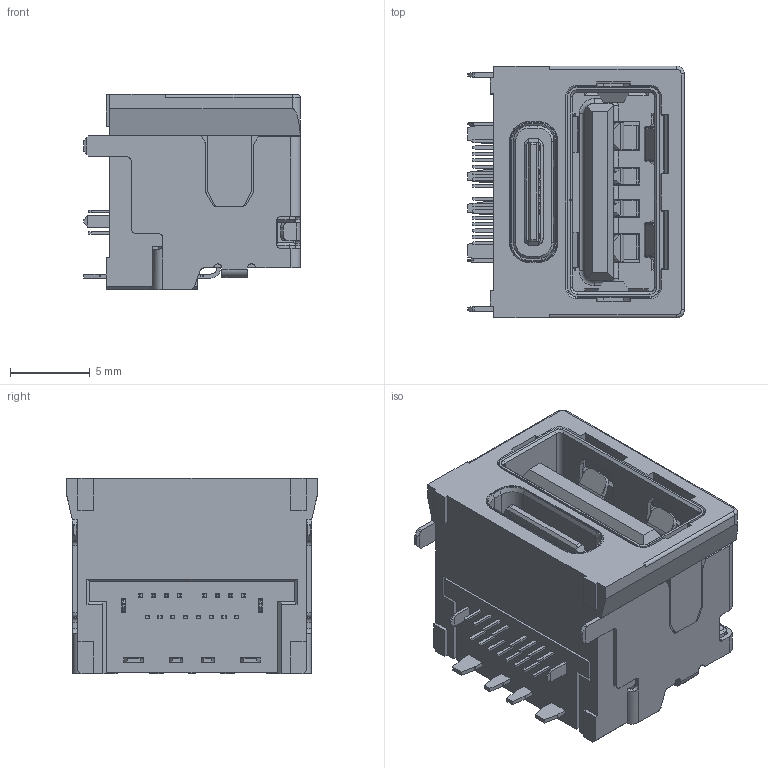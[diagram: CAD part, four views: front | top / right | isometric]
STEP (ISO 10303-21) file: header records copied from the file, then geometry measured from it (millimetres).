
FILE_DESCRIPTION((' '),'2;1');
FILE_NAME( 'U5287-16PN12.2L.stp', '2026-05-09T15:18:03', (' '), ('--- ---'), ' V2026.1 Dec 31 2025', ' 2026 (c)', ' ');
FILE_SCHEMA(('AP242_MANAGED_MODEL_BASED_3D_ENGINEERING_MIM_LF { 1 0 10303 442 1 1 4 }'));
Length unit declared in the file: millimetre
Products named in the file (1): U5287-16PN12.2L
Bounding box: 13.56 x 15.76 x 12.2 mm (x, y, z)
Volume: 1377.2 mm3; surface area: 4256.2 mm2
Topology: 22 solids, 22 shells, 2942 faces, 8039 edges, 5120 vertices
Faces by surface type: plane 1998, cylinder 711, bspline 117, cone 70, torus 30, sphere 16
Entity records: 104451 total; most frequent: CARTESIAN_POINT 31367, ORIENTED_EDGE 16056, DIRECTION 13851, EDGE_CURVE 8028, VECTOR 6025, LINE 6025, VERTEX_POINT 5120, AXIS2_PLACEMENT_3D 3913
